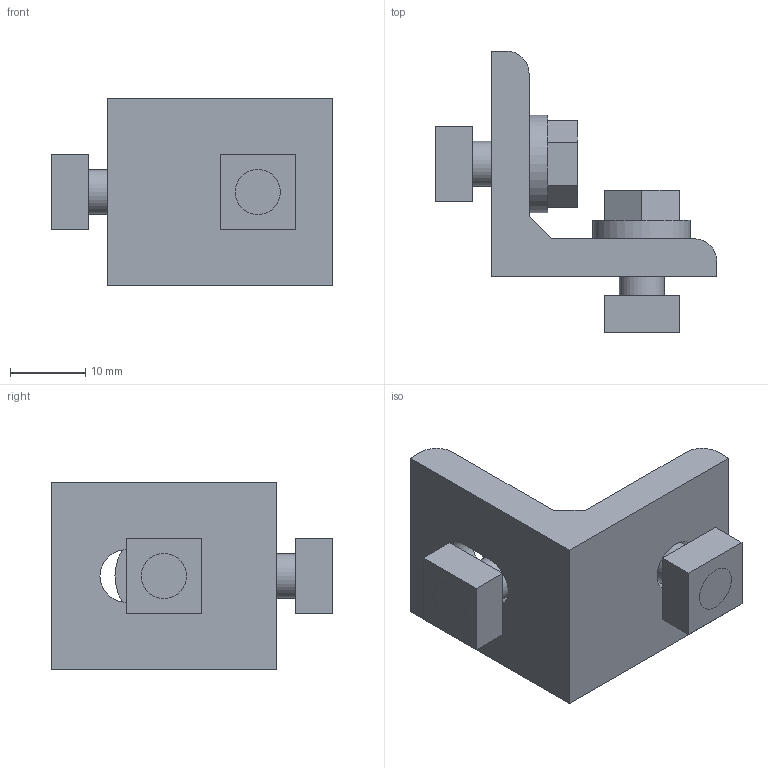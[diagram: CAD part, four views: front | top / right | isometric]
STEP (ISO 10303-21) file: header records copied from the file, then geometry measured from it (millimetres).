
FILE_DESCRIPTION((''),'2;1');
FILE_NAME('C:\Documents and Settings\古川典政\My Documents\Inventor\HP用\MasterData\BRACKET\M6\ABL-3025-6.stp','2008-07-31T09:16:57',(''),(''),'Autodesk Inventor 2008','Autodesk Inventor 2008','');
FILE_SCHEMA(('CONFIG_CONTROL_DESIGN'));
Length unit declared in the file: millimetre
Products named in the file (6): ABL-3025-6; ABL-3025-61; ABL-3025-62; ABL-3025-63; ABL-3025-64; ABL-3025-65
Assembly tree (5 placements, depth 2):
  ABL-3025-6
    ABL-3025-61
    ABL-3025-62
    ABL-3025-63
    ABL-3025-64
    ABL-3025-65
Bounding box: 37.5 x 37.5 x 25 mm (x, y, z)
Volume: 9092.4 mm3; surface area: 6042.5 mm2
Topology: 5 solids, 5 shells, 58 faces, 131 edges, 89 vertices
Faces by surface type: plane 45, cylinder 10, bspline 3
Full cylindrical faces by diameter (mm): 6 x2, 6.4 x2, 13 x2
Entity records: 1745 total; most frequent: CARTESIAN_POINT 321, DIRECTION 275, ORIENTED_EDGE 234, EDGE_CURVE 117, AXIS2_PLACEMENT_3D 92, VECTOR 91, LINE 91, VERTEX_POINT 84
